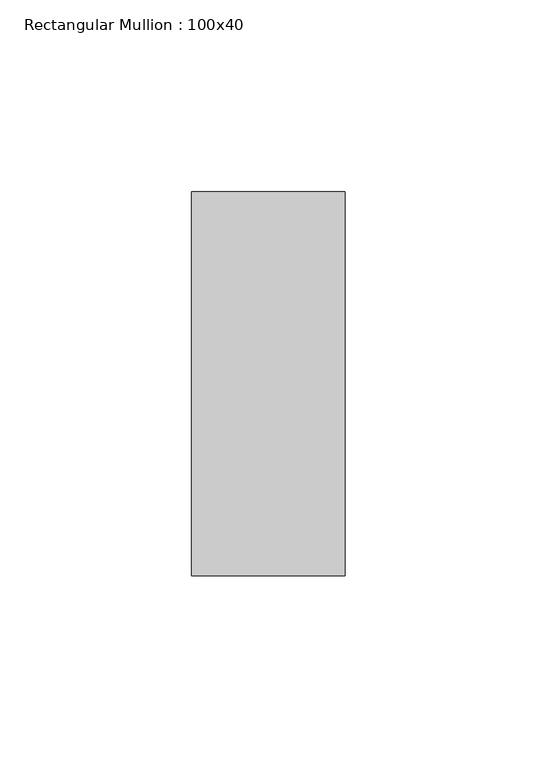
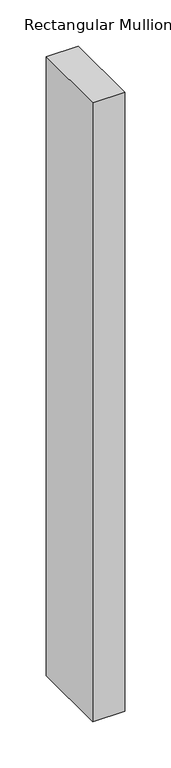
"""IFC4 building model written with IfcOpenShell, lengths in millimetres: member geometry, Rectangular Mullion : 100x40."""

from ifc_helpers import new_model, si_unit, frame, origin, place, context, project, spatial, polyline, outline, extrude, source, transform, mapped, element, save


def rectangular_mullion_100x40_3ba05631(model_context):
    return source(origin(), model_context, "Body", "SweptSolid", [
        extrude(outline(polyline([(0.0, 50.0), (0.0, -50.0), (-40.0, -50.0), (-40.0, 50.0), (0.0, 50.0)])), frame((0.0, 0.0, -816.6666667), z_axis=(0.0, 0.0, 1.0), x_axis=(1.0, 0.0, 0.0)), (0.0, 0.0, 1.0), 816.6666667),
    ])


if __name__ == "__main__":
    model = new_model("IFC4")
    model_context = context("Model", 3, world=origin())
    ifc_project = project(units=[si_unit("LENGTHUNIT", "METRE", prefix="MILLI")], contexts=[model_context])
    site = spatial("IfcSite", under=ifc_project)
    building = spatial("IfcBuilding", under=site)
    placement = place(None, origin())
    rectangular_mullion_100x40_shape = rectangular_mullion_100x40_3ba05631(model_context)
    element("IfcMember", 1, ObjectType="Rectangular Mullion : 100x40", at=placement, inside=building, context=model_context, shape_type="MappedRepresentation", body=[
        mapped(rectangular_mullion_100x40_shape, transform((0.0, 0.0, 0.0), x_axis=(1.0, 0.0, 0.0), y_axis=(0.0, 1.0, 0.0), z_axis=(0.0, 0.0, 1.0))),
    ])
    save(model, "model.ifc")
